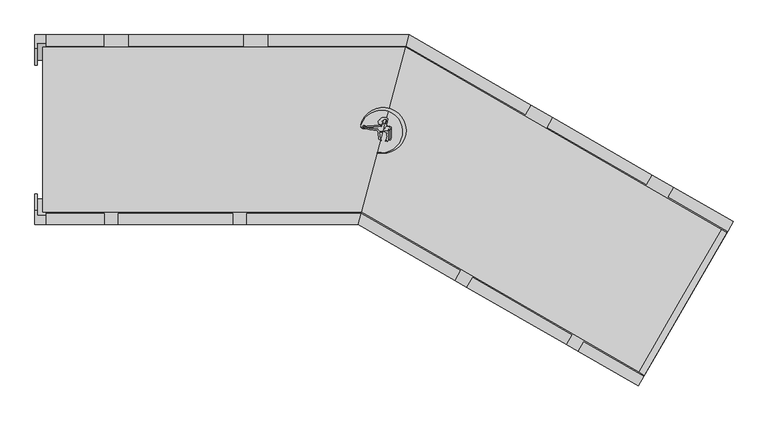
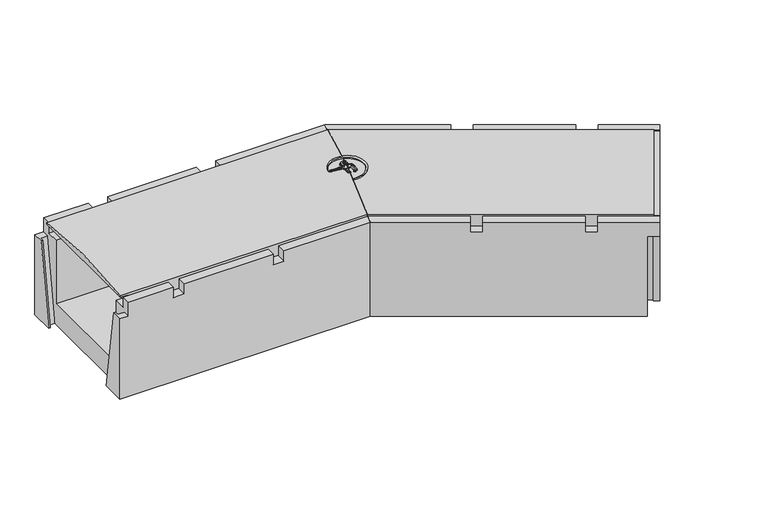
"""IFC4 building model written with IfcOpenShell, lengths in millimetres: cable carrier fitting geometry, Evotray type 2 horizontal bend : Evotray type 2 horizontal bend."""

from ifc_helpers import new_model, si_unit, point, frame, frame_2d, origin, place, context, project, spatial, polyline, circle_curve, ellipse_curve, trimmed, segment, composite_curve, outline, extrude, faceted_brep, source, transform, mapped, element, save
from ifc_brep_helpers import plane_surface, cylinder_surface, advanced_brep


def cable_carrier_fitting_d1a5fffa(model_context):
    return source(origin(), model_context, "Body", "SolidModel", [
        extrude(outline(composite_curve([segment(polyline([(130.7066847, 7.5339815), (132.1323757, 6.7108584), (131.4234444, 6.3015567), (128.8585146, 6.3015567), (126.3990213, 3.8420634), (126.3990213, 2.2583954), (125.3415073, 1.9750354), (125.0101402, 3.2117144), (125.3323616, 4.414261), (125.3323616, 6.6410761), (126.7989023, 8.1076167), (126.3990213, 8.8002309), (125.3323616, 9.4160672), (124.4740897, 9.9115907), (123.4809661, 10.9047143), (123.4809661, 12.1547711), (124.2687603, 11.6999379), (125.3323616, 10.6363367), (126.3990213, 10.0205004), (128.7117859, 10.0205004), (129.3436846, 10.6523991), (129.3436846, 12.2608037), (129.7495416, 12.9637687), (129.9891116, 13.8578561), (129.9891116, 17.953291), (129.3436846, 18.598718), (125.3323616, 18.9496633), (124.5841975, 18.5177106), (124.1523489, 17.769727), (123.9299555, 16.9397435), (123.6572391, 15.393092), (123.1012174, 15.9491137), (122.5355616, 16.5147695), (121.5750267, 16.5147695), (121.1005873, 15.6930164), (121.1005873, 14.868111), (121.5026344, 14.1717449), (122.2303291, 13.4440503), (121.8336897, 11.9637721), (121.4961898, 10.7042051), (121.7989972, 8.9868987), (120.9982041, 8.8456973), (119.2677588, 9.3093687), (118.0210496, 9.8907188), (117.2677924, 10.2419684), (115.6683438, 9.9599424), (116.1359022, 10.7697774), (117.7927232, 11.3728109)]), True, "CONTINUOUS"), segment(trimmed(circle_curve(frame_2d((117.2265957, 11.1008716)), 0.6280537), [point((117.7927232, 11.3728109))], [point((117.0710135, 11.7093497))], True, "CARTESIAN"), True, "CONTINUOUS"), segment(polyline([(117.0710135, 11.7093497), (115.1239984, 11.7093497), (115.6821765, 12.2675278), (116.5329563, 12.5771863), (117.3513958, 12.875074)]), True, "CONTINUOUS"), segment(trimmed(circle_curve(frame_2d((116.6130709, 12.875074)), 0.7383249), [point((117.3513958, 12.875074))], [point((116.6130709, 13.6133989))], True, "CARTESIAN"), True, "CONTINUOUS"), segment(polyline([(116.6130709, 13.6133989), (114.9053233, 13.6133989), (114.5138017, 14.2915342), (116.3323938, 14.612201), (117.6287318, 15.0840295), (117.0079791, 15.7047821), (115.0447596, 15.7047821), (115.597342, 16.2573646), (116.6271747, 16.8519388), (117.3018991, 17.5266631), (118.0247164, 17.9439819), (118.9997284, 18.5069053)]), True, "CONTINUOUS"), segment(trimmed(circle_curve(frame_2d((118.788743, 18.8723428)), 0.4219708), [point((118.9997284, 18.5069053))], [point((118.5777576, 19.2377802))], True, "CARTESIAN"), True, "CONTINUOUS"), segment(polyline([(118.5777576, 19.2377802), (119.1951543, 19.8551768), (120.4978242, 20.3293099), (121.4928808, 20.9038061), (122.6244174, 21.1033266), (122.2705916, 22.0754549), (127.2705916, 22.0754549), (128.2847654, 21.6025379), (129.4066204, 21.3019378), (130.4210665, 20.716247), (131.529743, 19.6075706), (131.529743, 17.0415553), (131.0408258, 16.1947259), (131.0408258, 13.46269), (130.5517909, 12.4139512), (130.144989, 11.7093497), (130.144989, 9.8605854), (129.3436846, 9.3979521), (128.5104061, 9.2510226)]), True, "CONTINUOUS"), segment(trimmed(circle_curve(frame_2d((129.5633576, 8.9688851)), 1.0900956), [point((128.5104061, 9.2510226))], [point((129.2812201, 7.9159336))], True, "CARTESIAN"), True, "CONTINUOUS"), segment(polyline([(129.2812201, 7.9159336), (130.7066847, 7.5339815)]), True, "CONTINUOUS")], self_intersect=False)), frame((0.0, 0.0, 223.75), z_axis=(0.0, 0.0, 1.0), x_axis=(1.0, 0.0, 0.0)), (0.0, 0.0, 1.0), 22.5),
        extrude(outline(polyline([(135.2633939, 4.6789788), (133.34075, 5.7890178), (134.5299901, 6.1076737), (135.9048454, 5.6072673), (138.0309946, 4.3797345), (138.442644, 2.8434379), (138.442644, 0.0702487), (138.0242632, -2.3025073), (137.698126, -11.6418533), (137.698126, -14.4967502), (137.1384781, -17.6706715), (135.979454, -18.8296956), (135.0819654, -18.8296956), (135.7568395, -16.975494), (136.0657951, -15.2233198), (136.5802524, -12.3056877), (136.5802524, -1.066223), (137.021887, 1.4384114), (136.4794102, 3.4629626), (135.2633939, 4.6789788)])), frame((0.0, 0.0, 223.75), z_axis=(0.0, 0.0, 1.0), x_axis=(1.0, 0.0, 0.0)), (0.0, 0.0, 1.0), 22.5),
        extrude(outline(composite_curve([segment(polyline([(127.835145, -2.929042), (129.8173464, -2.929042), (131.2856108, -2.6701473), (132.5908928, -1.3648653), (133.7710016, 1.1658863), (134.2519536, -0.1555184), (133.6292459, -1.4909195), (132.9586384, -2.929042), (132.9586384, -8.8872378), (132.5302593, -11.3166965), (132.5302593, -19.7978385), (131.0816006, -21.2464971), (130.5088634, -20.6737599), (131.1875834, -18.9313898), (131.4457288, -17.4673747)]), True, "CONTINUOUS"), segment(trimmed(circle_curve(frame_2d((131.0310807, -17.4673747)), 0.414648), [point((131.4457288, -17.4673747))], [point((130.6164327, -17.4673747))], True, "CARTESIAN"), True, "CONTINUOUS"), segment(polyline([(130.6164327, -17.4673747), (129.8507439, -18.2330635), (128.5838974, -19.7428323), (127.9283884, -20.3983414), (127.1360672, -20.0288759), (129.3002871, -16.820288), (129.6061967, -15.0853881), (130.4482546, -13.2795892), (130.7054621, -11.8208929), (129.9169534, -10.4551557), (129.9169534, -7.6886085), (131.2401018, -5.8190518)]), True, "CONTINUOUS"), segment(trimmed(circle_curve(frame_2d((130.9029968, -5.5804712)), 0.4129897), [point((131.2401018, -5.8190518))], [point((130.6644162, -5.2433662))], True, "CARTESIAN"), True, "CONTINUOUS"), segment(polyline([(130.6644162, -5.2433662), (128.6606012, -4.8900395), (127.2167047, -4.2167395), (125.3967041, -3.3680593), (125.3967041, -2.499079), (127.835145, -2.929042)]), True, "CONTINUOUS")], self_intersect=False)), frame((0.0, 0.0, 223.75), z_axis=(0.0, 0.0, 1.0), x_axis=(1.0, 0.0, 0.0)), (0.0, 0.0, 1.0), 22.5),
        extrude(outline(composite_curve([segment(polyline([(85.4235491, 3.8801527), (87.159223, 3.0707947), (91.3456968, 3.0707947), (92.4164179, 3.3576935), (93.7429556, 3.3576935), (95.4640644, 3.0707947), (97.4703865, 2.5332023), (98.6235746, 2.2242065), (104.3154812, 2.2242065), (106.9319771, 1.7880518), (108.2595398, 1.4323324), (113.8737821, 1.4323324)]), True, "CONTINUOUS"), segment(trimmed(circle_curve(frame_2d((122.7273482, 4.337939)), 9.3181642), [point((113.8737821, 1.4323324))], [point((117.2280498, -3.184421))], True, "CARTESIAN"), True, "CONTINUOUS"), segment(polyline([(117.2280498, -3.184421), (120.2798347, -3.184421), (122.3144132, -3.0064185), (123.4534172, -2.4752922), (123.1958972, -3.4363696), (122.251803, -3.9814427), (121.2931161, -4.3303762), (118.058411, -4.2174178), (116.8697164, -4.6500673), (116.4607221, -5.5271586), (116.5358027, -6.3853337), (117.0146868, -7.2147854), (117.7352923, -7.9353909), (117.7352923, -9.6916034), (117.3699921, -10.6952577), (117.5142587, -12.3442325), (118.019351, -14.2292627), (118.1674701, -15.9222719), (120.5388052, -18.6501808), (120.3301282, -19.8336466), (117.7352923, -17.2388107), (116.7724607, -17.4968007), (115.3692845, -17.2493828), (115.6448449, -16.4922869), (115.6448449, -14.2182314), (115.8204487, -13.2223327), (115.6448449, -11.2151718), (115.2691825, -10.1830477), (115.2691825, -8.3578648), (114.8228468, -7.4006948), (114.8228468, -5.0229453), (114.5744065, -4.0957537), (114.1224362, -3.3129181), (113.6737244, -2.5357266), (113.059282, -1.9212842), (112.6254308, -0.9908871), (109.0244926, -0.8651396), (106.6803406, -0.4743831), (104.6477473, 0.0702487), (101.3061277, 0.4214671), (99.2265146, 0.4214671), (97.88428, 0.7811177), (96.360685, 1.1893638), (95.0174317, 1.8157331), (94.0230429, 1.8157331), (91.3716026, 1.8157331), (90.2593585, 1.5177082), (88.3960765, 1.713547), (86.9070017, 1.9617671), (85.2336941, 2.7420433), (84.2577678, 3.7179696), (83.6186847, 4.3570527), (83.6186847, 5.1439324), (85.4235491, 3.8801527)]), True, "CONTINUOUS")], self_intersect=False)), frame((0.0, 0.0, 223.75), z_axis=(0.0, 0.0, 1.0), x_axis=(1.0, 0.0, 0.0)), (0.0, 0.0, 1.0), 22.5),
        extrude(outline(composite_curve([segment(polyline([(87.9257817, 5.4241248), (88.949096, 4.833314), (87.2214356, 5.3529849), (86.8912891, 6.2705486), (87.7296135, 7.108873), (90.602432, 7.108873), (91.586869, 6.7111347), (92.6773578, 6.2705486), (93.4755514, 5.8097113), (94.7357815, 5.8097113), (95.5568066, 6.1051225), (96.4420588, 6.6162232), (102.8557638, 6.6162232), (103.7113384, 6.2705486), (104.7817404, 6.2705486), (105.7424606, 6.6162232), (106.9216173, 6.6162232), (107.6399563, 7.0309564), (113.0526116, 7.0309564), (113.8128922, 7.3045113), (115.0550502, 7.3045113), (115.6308188, 7.8802798), (117.5883822, 7.8802798), (118.8763833, 7.3598936), (119.8882997, 6.7756634), (120.6927408, 6.4506481)]), True, "CONTINUOUS"), segment(trimmed(circle_curve(frame_2d((120.2854084, 6.2860752)), 0.4393221), [point((120.6927408, 6.4506481))], [point((120.1208355, 5.8787428))], False, "CARTESIAN"), True, "CONTINUOUS"), segment(polyline([(120.1208355, 5.8787428), (119.1051068, 6.2891238), (117.793449, 6.2891238), (116.523019, 6.5131349), (115.7109946, 6.2209622), (114.5680207, 5.8097113), (111.2238227, 5.8097113), (110.4327494, 5.3529849), (106.8654291, 5.3529849), (105.9825668, 4.8432641), (95.9825668, 4.8432641), (93.3719027, 4.6148606), (89.683375, 6.1051225), (87.5326075, 6.1051225), (87.9257817, 5.4241248)]), True, "CONTINUOUS")], self_intersect=False)), frame((0.0, 0.0, 223.75), z_axis=(0.0, 0.0, 1.0), x_axis=(1.0, 0.0, 0.0)), (0.0, 0.0, 1.0), 22.5),
        extrude(outline(composite_curve([segment(trimmed(circle_curve(frame_2d((120.5060418, -3.2457098)), 38.3616107), [point((113.098205, -40.8852785))], [point((83.7945065, 7.8842657))], True, "CARTESIAN"), True, "CONTINUOUS"), segment(trimmed(circle_curve(frame_2d((123.6354425, -1.3653761)), 40.900563), [point((83.7945065, 7.8842657))], [point((113.098205, -40.8852785))], False, "CARTESIAN"), True, "CONTINUOUS")], self_intersect=False)), frame((0.0, 0.0, 223.75), z_axis=(0.0, 0.0, 1.0), x_axis=(1.0, 0.0, 0.0)), (0.0, 0.0, 1.0), 22.5),
        advanced_brep(
        [(591.4870205, -439.9630657, 205.0), (84.8621593, -147.4630657, 205.0), (163.9071711, 147.5369343, 205.0), (738.9870205, -184.4855716, 205.0), (738.9870205, -184.4855716, 230.0), (591.4870205, -439.9630657, 230.0), (163.9071711, 147.5369343, 234.0), (728.5947157, -178.4855716, 234.005976), (728.5947157, -178.4855716, 230.0), (84.8621593, -147.4630657, 234.0), (581.0947157, -433.9630657, 230.0), (581.0947157, -433.9630657, 233.9940225)],
        [
            (0, 1),
            (1, 2),
            (2, 3),
            (3, 0),
            (3, 4),
            (4, 5),
            (5, 0),
            (2, 6),
            (6, 7),
            (7, 8),
            (8, 4),
            (1, 9),
            (9, 6, ellipse_curve(frame((124.3945617, 0.0738686, -677.5025429), z_axis=(-0.9659258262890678, 0.25881904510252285, 0.0), x_axis=(-0.2588190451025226, -0.9659258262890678, 0.0)), 955.9323034, 923.3597)),
            (5, 10),
            (10, 11),
            (11, 9),
            (8, 10),
            (7, 11, circle_curve(frame((654.8631828, -306.1923326, -677.5025429), z_axis=(0.8660254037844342, -0.500000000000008, 0.0), x_axis=(-0.500000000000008, -0.8660254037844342, 0.0)), 923.3597)),
        ],
        [
            plane_surface(frame((705.2370205, -242.9422863, 205.0), z_axis=(0.0, 0.0, -1.0000000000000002), x_axis=(-0.5000000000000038, -0.8660254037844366, 0.0))),
            plane_surface(frame((591.4870205, -439.9630657, 246.0), z_axis=(0.8660254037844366, -0.5000000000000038, 0.0), x_axis=(0.0, 0.0, -1.0))),
            plane_surface(frame((738.9870205, -184.4855716, 246.0), z_axis=(0.5000000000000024, 0.8660254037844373, 0.0), x_axis=(0.0, 0.0, -1.0))),
            plane_surface(frame((163.9071711, 147.5369343, 246.0), z_axis=(-0.9659258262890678, 0.25881904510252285, 0.0), x_axis=(0.0, 0.0, -1.0))),
            plane_surface(frame((84.8621593, -147.4630657, 246.0), z_axis=(-0.5000000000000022, -0.8660254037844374, 0.0), x_axis=(0.0, 0.0, -1.0))),
            plane_surface(frame((616.0447157, -373.42789, 230.0), z_axis=(0.0, 0.0, 1.0000000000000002), x_axis=(0.5000000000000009, 0.8660254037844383, 0.0))),
            plane_surface(frame((728.5947157, -178.4855716, 246.0), z_axis=(0.8660254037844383, -0.5000000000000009, 0.0), x_axis=(0.0, 0.0, -1.0))),
            cylinder_surface(frame((124.4671044, 0.031986, -677.5025429), z_axis=(0.8660254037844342, -0.500000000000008, 0.0), x_axis=(-0.500000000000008, -0.8660254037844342, 0.0)), 923.3597),
        ],
        [
            (0, [[1, 2, 3, 4]]),
            (1, [[-4, 5, 6, 7]]),
            (2, [[-3, 8, 9, 10, 11, -5]]),
            (3, [[-2, 12, 13, -8]]),
            (4, [[-1, -7, 14, 15, 16, -12]]),
            (5, [[17, -14, -6, -11]]),
            (6, [[-17, -10, 18, -15]]),
            (7, [[-9, -13, -16, -18]]),
        ],
    ),
        advanced_brep(
        [(163.9711432, 147.5, 205.0), (84.9261314, -147.5, 205.0), (-466.0, -147.5, 205.0), (-466.0, 147.5, 205.0), (84.9261314, -147.5, 230.0), (84.9261314, -147.5, 233.9940225), (-486.0, -147.5, 233.9940225), (-486.0, -147.5, 230.0), (-466.0, -147.5, 230.0), (163.9711432, 147.5, 230.0), (163.9711432, 147.5, 234.005976), (-466.0, 147.5, 230.0), (-486.0, 147.5, 230.0), (-486.0, 147.5, 234.005976)],
        [
            (0, 1),
            (1, 2),
            (2, 3),
            (3, 0),
            (1, 4),
            (4, 5),
            (5, 6),
            (6, 7),
            (7, 8),
            (8, 2),
            (0, 9),
            (9, 10),
            (10, 5, ellipse_curve(frame((124.4585338, 0.0369343, -677.5025429), z_axis=(0.9659258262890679, -0.2588190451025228, 0.0), x_axis=(0.2588190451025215, 0.965925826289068, 0.0)), 955.9323034, 923.3597)),
            (3, 11),
            (11, 12),
            (12, 13),
            (13, 10),
            (12, 7),
            (6, 13, circle_curve(frame((-486.0, 0.0369343, -677.5025429), z_axis=(-1.0, 0.0, 0.0), x_axis=(0.0, -1.0, 0.0)), 923.3597)),
            (11, 8),
        ],
        [
            plane_surface(frame((-77.5, -147.5, 205.0), z_axis=(0.0, 0.0, -1.0), x_axis=(-1.0, 0.0, 0.0))),
            plane_surface(frame((-486.0, -147.5, 246.0), z_axis=(0.0, -1.0, 0.0), x_axis=(0.0, 0.0, -1.0))),
            plane_surface(frame((84.9261314, -147.5, 246.0), z_axis=(0.9659258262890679, -0.2588190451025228, 0.0), x_axis=(0.0, 0.0, -1.0))),
            plane_surface(frame((163.9711432, 147.5, 246.0), z_axis=(0.0, 1.0, 0.0), x_axis=(0.0, 0.0, -1.0))),
            plane_surface(frame((-486.0, 147.5, 246.0), z_axis=(-1.0, 0.0, 0.0), x_axis=(0.0, 0.0, -1.0))),
            plane_surface(frame((-486.0, 147.5, 230.0), z_axis=(0.0, 0.0, -1.0), x_axis=(-1.0, 0.0, 0.0))),
            plane_surface(frame((-466.0, -147.5, 230.0), z_axis=(-1.0, 0.0, 0.0), x_axis=(0.0, 0.0, -1.0))),
            cylinder_surface(frame((-486.0, 0.0369343, -677.5025429), z_axis=(1.0, 0.0, 0.0), x_axis=(0.0, -1.0, 0.0)), 923.3597),
        ],
        [
            (0, [[1, 2, 3, 4]]),
            (1, [[5, 6, 7, 8, 9, 10, -2]]),
            (2, [[-1, 11, 12, 13, -6, -5]]),
            (3, [[-11, -4, 14, 15, 16, 17, -12]]),
            (4, [[18, -8, 19, -16]]),
            (5, [[20, -9, -18, -15]]),
            (6, [[-20, -14, -3, -10]]),
            (7, [[-7, -13, -17, -19]]),
        ],
    ),
        faceted_brep([(84.2562584, -150.0, 230.0), (78.8972746, -170.0, 230.0), (252.0133925, -269.9486373, 230.0), (262.0133925, -252.6281292, 230.0), (170.0, 170.0, 230.0), (164.6410162, 150.0, 230.0), (378.2384018, 26.6794919, 230.0), (388.2384018, 44.0, 230.0), (740.2370205, -182.3205081, 230.0), (750.2370205, -165.0, 230.0), (643.7158959, -103.5, 230.0), (633.7158959, -120.8205081, 230.0), (580.2370205, -459.4486373, 230.0), (590.2370205, -442.1281292, 230.0), (482.8498705, -380.1281292, 230.0), (472.8498705, -397.4486373, 230.0), (604.7447527, -81.0, 230.0), (427.2095449, 21.5, 230.0), (417.2095449, 4.1794919, 230.0), (594.7447527, -98.3205081, 230.0), (273.6640276, -282.4486373, 230.0), (451.1992354, -384.9486373, 230.0), (461.1992354, -367.6281292, 230.0), (283.6640276, -265.1281292, 230.0), (78.8972746, -170.0, 0.0), (170.0, 170.0, 0.0), (728.5863854, -152.5, 0.0), (700.0863854, -201.863448, 0.0), (710.4786903, -207.863448, 0.0), (711.6786903, -205.784987, 0.0), (722.9370205, -212.284987, 0.0), (607.5370205, -412.1636502, 0.0), (596.2786903, -405.6636502, 0.0), (597.4786903, -403.5851893, 0.0), (587.0863854, -397.5851893, 0.0), (558.5863854, -446.9486373, 0.0), (388.2384018, 44.0, 205.0), (427.2095449, 21.5, 205.0), (604.7447527, -81.0, 205.0), (643.7158959, -103.5, 205.0), (750.2370205, -165.0, 196.0), (728.5863854, -152.5, 196.0), (84.2562584, -150.0, 205.0), (92.2947342, -120.0, 205.0), (92.2947342, -120.0, 50.0), (156.6025404, 120.0, 50.0), (156.6025404, 120.0, 205.0), (164.6410162, 150.0, 205.0), (558.5863854, -446.9486373, 196.0), (580.2370205, -459.4486373, 196.0), (472.8498705, -397.4486373, 205.0), (451.1992354, -384.9486373, 205.0), (273.6640276, -282.4486373, 205.0), (252.0133925, -269.9486373, 205.0), (590.2370205, -442.1281292, 196.0), (740.2370205, -182.3205081, 196.0), (740.2370205, -182.3205081, 205.0), (725.2370205, -208.3012702, 205.0), (725.2370205, -208.3012702, 50.0), (605.2370205, -416.1473671, 50.0), (605.2370205, -416.1473671, 205.0), (590.2370205, -442.1281292, 205.0), (578.9786903, -435.6281292, 196.0), (569.7863854, -427.5496682, 196.0), (580.1786903, -433.5496682, 196.0), (728.9786903, -175.8205081, 196.0), (727.7786903, -177.898969, 196.0), (717.3863854, -171.898969, 196.0), (262.0133925, -252.6281292, 205.0), (283.6640276, -265.1281292, 205.0), (461.1992354, -367.6281292, 205.0), (482.8498705, -380.1281292, 205.0), (633.7158959, -120.8205081, 205.0), (594.7447527, -98.3205081, 205.0), (417.2095449, 4.1794919, 205.0), (378.2384018, 26.6794919, 205.0)], [[[0, 1, 2, 3]], [[4, 5, 6, 7]], [[8, 9, 10, 11]], [[12, 13, 14, 15]], [[16, 17, 18, 19]], [[20, 21, 22, 23]], [[24, 25, 26, 27, 28, 29, 30, 31, 32, 33, 34, 35]], [[25, 4, 7, 36, 37, 17, 16, 38, 39, 10, 9, 40, 41, 26]], [[25, 24, 1, 0, 42, 43, 44, 45, 46, 47, 5, 4]], [[1, 24, 35, 48, 49, 12, 15, 50, 51, 21, 20, 52, 53, 2]], [[12, 49, 54, 31, 30, 55, 40, 9, 8, 56, 57, 58, 59, 60, 61, 13]], [[62, 54, 49, 48, 63, 64]], [[54, 62, 32, 31]], [[55, 65, 66, 67, 41, 40]], [[65, 55, 30, 29]], [[64, 33, 32, 62]], [[64, 63, 34, 33]], [[63, 48, 35, 34]], [[28, 66, 65, 29]], [[67, 66, 28, 27]], [[41, 67, 27, 26]], [[43, 42, 68, 53, 52, 69, 70, 51, 50, 71, 61, 60]], [[47, 46, 57, 56, 72, 39, 38, 73, 74, 37, 36, 75]], [[19, 18, 74, 73]], [[5, 47, 75, 6]], [[56, 8, 11, 72]], [[23, 22, 70, 69]], [[42, 0, 3, 68]], [[13, 61, 71, 14]], [[58, 45, 44, 59]], [[45, 58, 57, 46]], [[59, 44, 43, 60]], [[51, 70, 22, 21]], [[71, 50, 15, 14]], [[75, 36, 7, 6]], [[37, 74, 18, 17]], [[73, 38, 16, 19]], [[39, 72, 11, 10]], [[53, 68, 3, 2]], [[69, 52, 20, 23]]]),
        faceted_brep([(78.8972746, -170.0, 230.0), (84.2562584, -150.0, 230.0), (-121.0, -150.0, 230.0), (-121.0, -170.0, 230.0), (164.6410162, 150.0, 230.0), (170.0, 170.0, 230.0), (-82.0, 170.0, 230.0), (-82.0, 150.0, 230.0), (-127.0, 170.0, 230.0), (-332.0, 170.0, 230.0), (-332.0, 150.0, 230.0), (-127.0, 150.0, 230.0), (-376.0, -170.0, 230.0), (-376.0, -150.0, 230.0), (-480.0, -150.0, 230.0), (-480.0, -170.0, 230.0), (-377.0, 150.0, 230.0), (-377.0, 170.0, 230.0), (-480.0, 170.0, 230.0), (-480.0, 150.0, 230.0), (-351.0, -170.0, 230.0), (-146.0, -170.0, 230.0), (-146.0, -150.0, 230.0), (-351.0, -150.0, 230.0), (-500.0, 170.0, 0.0), (170.0, 170.0, 0.0), (78.8972746, -170.0, 0.0), (-500.0, -170.0, 0.0), (-500.0, -115.5, 0.0), (-496.0, -115.5, 0.0), (-496.0, -124.6, 0.0), (-480.0, -124.6, 0.0), (-480.0, 124.6, 0.0), (-496.0, 124.6, 0.0), (-496.0, 115.4, 0.0), (-500.0, 115.4, 0.0), (-500.0, 170.0, 196.0), (-500.0, 144.8852174, 196.0), (-500.0, -170.0, 196.0), (-500.0, -144.9, 196.0), (-121.0, -170.0, 205.0), (-146.0, -170.0, 205.0), (-351.0, -170.0, 205.0), (-376.0, -170.0, 205.0), (-480.0, -170.0, 196.0), (164.6410162, 150.0, 205.0), (156.6025404, 120.0, 205.0), (156.6025404, 120.0, 50.0), (92.2947342, -120.0, 50.0), (92.2947342, -120.0, 205.0), (84.2562584, -150.0, 205.0), (-480.0, 170.0, 196.0), (-377.0, 170.0, 205.0), (-332.0, 170.0, 205.0), (-127.0, 170.0, 205.0), (-82.0, 170.0, 205.0), (-82.0, 150.0, 205.0), (-127.0, 150.0, 205.0), (-332.0, 150.0, 205.0), (-377.0, 150.0, 205.0), (-480.0, 150.0, 205.0), (-480.0, 147.5, 205.0), (-480.0, 120.0, 205.0), (-466.0, 120.0, 205.0), (-466.0, -120.0, 205.0), (-480.0, -120.0, 205.0), (-480.0, -147.5, 205.0), (-480.0, -150.0, 205.0), (-376.0, -150.0, 205.0), (-351.0, -150.0, 205.0), (-146.0, -150.0, 205.0), (-121.0, -150.0, 205.0), (-480.0, 120.0, 50.0), (-480.0, -120.0, 50.0), (-480.0, -154.0852174, 196.0), (-496.0, -154.0852174, 196.0), (-496.0, -144.9, 196.0), (-496.0, 144.8852174, 196.0), (-496.0, 154.0, 196.0), (-480.0, 154.0, 196.0)], [[[0, 1, 2, 3]], [[4, 5, 6, 7]], [[8, 9, 10, 11]], [[12, 13, 14, 15]], [[16, 17, 18, 19]], [[20, 21, 22, 23]], [[24, 25, 26, 27, 28, 29, 30, 31, 32, 33, 34, 35]], [[36, 24, 35, 37]], [[27, 38, 39, 28]], [[27, 26, 0, 3, 40, 41, 21, 20, 42, 43, 12, 15, 44, 38]], [[26, 25, 5, 4, 45, 46, 47, 48, 49, 50, 1, 0]], [[25, 24, 36, 51, 18, 17, 52, 53, 9, 8, 54, 55, 6, 5]], [[46, 45, 56, 55, 54, 57, 58, 53, 52, 59, 60, 61, 62, 63]], [[50, 49, 64, 65, 66, 67, 68, 43, 42, 69, 70, 41, 40, 71]], [[23, 22, 70, 69]], [[1, 50, 71, 2]], [[13, 68, 67, 14]], [[11, 10, 58, 57]], [[45, 4, 7, 56]], [[59, 16, 19, 60]], [[48, 47, 72, 73]], [[47, 46, 63, 62, 72]], [[49, 48, 73, 65, 64]], [[43, 68, 13, 12]], [[69, 42, 20, 23]], [[59, 52, 17, 16]], [[53, 58, 10, 9]], [[57, 54, 8, 11]], [[55, 56, 7, 6]], [[38, 44, 74, 75, 76, 39]], [[51, 36, 37, 77, 78, 79]], [[44, 15, 14, 67, 66, 65, 73, 72, 62, 61, 60, 19, 18, 51, 79, 32, 31, 74]], [[35, 34, 77, 37]], [[29, 28, 39, 76]], [[32, 79, 78, 33]], [[33, 78, 77, 34]], [[75, 30, 29, 76]], [[74, 31, 30, 75]], [[41, 70, 22, 21]], [[71, 40, 3, 2]]]),
    ])


if __name__ == "__main__":
    model = new_model("IFC4")
    model_context = context("Model", 3, world=origin())
    ifc_project = project(units=[si_unit("LENGTHUNIT", "METRE", prefix="MILLI")], contexts=[model_context])
    site = spatial("IfcSite", under=ifc_project)
    building = spatial("IfcBuilding", under=site)
    placement = place(None, origin())
    cable_carrier_fitting_shape = cable_carrier_fitting_d1a5fffa(model_context)
    element("IfcCableCarrierFitting", 1, ObjectType="Evotray type 2 horizontal bend : Evotray type 2 horizontal bend", at=placement, inside=building, context=model_context, shape_type="MappedRepresentation", body=[
        mapped(cable_carrier_fitting_shape, transform((0.0, 0.0, 0.0), x_axis=(1.0, 0.0, 0.0), y_axis=(0.0, 1.0, 0.0), z_axis=(0.0, 0.0, 1.0))),
    ])
    save(model, "model.ifc")
